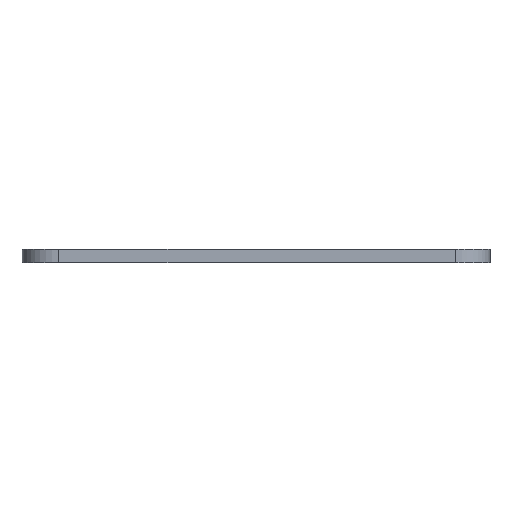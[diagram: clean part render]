
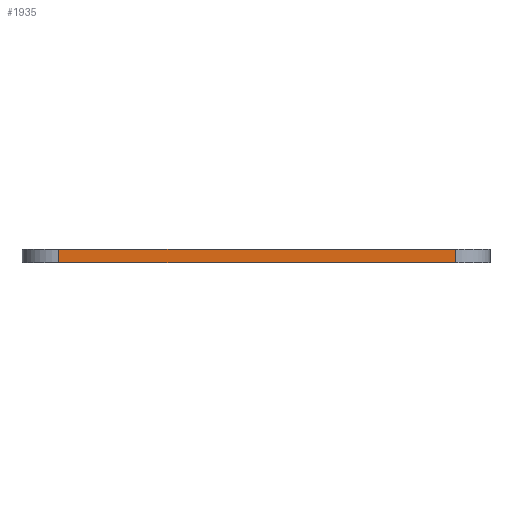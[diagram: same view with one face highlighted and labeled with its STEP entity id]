
A CAD part, front view. The second image highlights one B-rep face of the part: STEP entity #1935.
In plain terms, the highlighted planar face has unit normal (0, -1, 0).
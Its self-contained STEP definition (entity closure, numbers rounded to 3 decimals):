
#72 = PLANE('',#73);
#73 = AXIS2_PLACEMENT_3D('',#74,#75,#76);
#74 = CARTESIAN_POINT('',(50.497,82.804,3.));
#75 = DIRECTION('',(0.,0.,1.));
#76 = DIRECTION('',(1.,0.,-0.));
#126 = PLANE('',#127);
#127 = AXIS2_PLACEMENT_3D('',#128,#129,#130);
#128 = CARTESIAN_POINT('',(50.497,82.804,0.));
#129 = DIRECTION('',(0.,0.,1.));
#130 = DIRECTION('',(1.,0.,-0.));
#323 = VERTEX_POINT('',#324);
#324 = CARTESIAN_POINT('',(7.938,0.,0.));
#339 = CYLINDRICAL_SURFACE('',#340,7.938);
#340 = AXIS2_PLACEMENT_3D('',#341,#342,#343);
#341 = CARTESIAN_POINT('',(7.938,7.938,0.));
#342 = DIRECTION('',(-0.,-0.,-1.));
#343 = DIRECTION('',(1.,0.,-0.));
#351 = EDGE_CURVE('',#323,#352,#354,.T.);
#352 = VERTEX_POINT('',#353);
#353 = CARTESIAN_POINT('',(93.577,0.,0.));
#354 = SURFACE_CURVE('',#355,(#359,#366),.PCURVE_S1.);
#355 = LINE('',#356,#357);
#356 = CARTESIAN_POINT('',(7.938,0.,0.));
#357 = VECTOR('',#358,1.);
#358 = DIRECTION('',(1.,0.,0.));
#359 = PCURVE('',#126,#360);
#360 = DEFINITIONAL_REPRESENTATION('',(#361),#365);
#361 = LINE('',#362,#363);
#362 = CARTESIAN_POINT('',(-42.559,-82.804));
#363 = VECTOR('',#364,1.);
#364 = DIRECTION('',(1.,0.));
#365 = ( GEOMETRIC_REPRESENTATION_CONTEXT(2) 
PARAMETRIC_REPRESENTATION_CONTEXT() REPRESENTATION_CONTEXT('2D SPACE',''
  ) );
#366 = PCURVE('',#367,#372);
#367 = PLANE('',#368);
#368 = AXIS2_PLACEMENT_3D('',#369,#370,#371);
#369 = CARTESIAN_POINT('',(7.938,0.,0.));
#370 = DIRECTION('',(0.,1.,0.));
#371 = DIRECTION('',(1.,0.,0.));
#372 = DEFINITIONAL_REPRESENTATION('',(#373),#377);
#373 = LINE('',#374,#375);
#374 = CARTESIAN_POINT('',(0.,0.));
#375 = VECTOR('',#376,1.);
#376 = DIRECTION('',(1.,0.));
#377 = ( GEOMETRIC_REPRESENTATION_CONTEXT(2) 
PARAMETRIC_REPRESENTATION_CONTEXT() REPRESENTATION_CONTEXT('2D SPACE',''
  ) );
#396 = CYLINDRICAL_SURFACE('',#397,7.428);
#397 = AXIS2_PLACEMENT_3D('',#398,#399,#400);
#398 = CARTESIAN_POINT('',(93.577,7.428,0.));
#399 = DIRECTION('',(-0.,-0.,-1.));
#400 = DIRECTION('',(1.,0.,-0.));
#1139 = VERTEX_POINT('',#1140);
#1140 = CARTESIAN_POINT('',(7.938,0.,3.));
#1162 = EDGE_CURVE('',#1139,#1163,#1165,.T.);
#1163 = VERTEX_POINT('',#1164);
#1164 = CARTESIAN_POINT('',(93.577,0.,3.));
#1165 = SURFACE_CURVE('',#1166,(#1170,#1177),.PCURVE_S1.);
#1166 = LINE('',#1167,#1168);
#1167 = CARTESIAN_POINT('',(7.938,0.,3.));
#1168 = VECTOR('',#1169,1.);
#1169 = DIRECTION('',(1.,0.,0.));
#1170 = PCURVE('',#72,#1171);
#1171 = DEFINITIONAL_REPRESENTATION('',(#1172),#1176);
#1172 = LINE('',#1173,#1174);
#1173 = CARTESIAN_POINT('',(-42.559,-82.804));
#1174 = VECTOR('',#1175,1.);
#1175 = DIRECTION('',(1.,0.));
#1176 = ( GEOMETRIC_REPRESENTATION_CONTEXT(2) 
PARAMETRIC_REPRESENTATION_CONTEXT() REPRESENTATION_CONTEXT('2D SPACE',''
  ) );
#1177 = PCURVE('',#367,#1178);
#1178 = DEFINITIONAL_REPRESENTATION('',(#1179),#1183);
#1179 = LINE('',#1180,#1181);
#1180 = CARTESIAN_POINT('',(0.,-3.));
#1181 = VECTOR('',#1182,1.);
#1182 = DIRECTION('',(1.,0.));
#1183 = ( GEOMETRIC_REPRESENTATION_CONTEXT(2) 
PARAMETRIC_REPRESENTATION_CONTEXT() REPRESENTATION_CONTEXT('2D SPACE',''
  ) );
#1887 = EDGE_CURVE('',#323,#1139,#1888,.T.);
#1888 = SURFACE_CURVE('',#1889,(#1893,#1900),.PCURVE_S1.);
#1889 = LINE('',#1890,#1891);
#1890 = CARTESIAN_POINT('',(7.938,0.,0.));
#1891 = VECTOR('',#1892,1.);
#1892 = DIRECTION('',(0.,0.,1.));
#1893 = PCURVE('',#339,#1894);
#1894 = DEFINITIONAL_REPRESENTATION('',(#1895),#1899);
#1895 = LINE('',#1896,#1897);
#1896 = CARTESIAN_POINT('',(-4.712,0.));
#1897 = VECTOR('',#1898,1.);
#1898 = DIRECTION('',(-0.,-1.));
#1899 = ( GEOMETRIC_REPRESENTATION_CONTEXT(2) 
PARAMETRIC_REPRESENTATION_CONTEXT() REPRESENTATION_CONTEXT('2D SPACE',''
  ) );
#1900 = PCURVE('',#367,#1901);
#1901 = DEFINITIONAL_REPRESENTATION('',(#1902),#1906);
#1902 = LINE('',#1903,#1904);
#1903 = CARTESIAN_POINT('',(0.,0.));
#1904 = VECTOR('',#1905,1.);
#1905 = DIRECTION('',(0.,-1.));
#1906 = ( GEOMETRIC_REPRESENTATION_CONTEXT(2) 
PARAMETRIC_REPRESENTATION_CONTEXT() REPRESENTATION_CONTEXT('2D SPACE',''
  ) );
#1935 = ADVANCED_FACE('',(#1936),#367,.F.);
#1936 = FACE_BOUND('',#1937,.F.);
#1937 = EDGE_LOOP('',(#1938,#1939,#1940,#1961));
#1938 = ORIENTED_EDGE('',*,*,#1887,.T.);
#1939 = ORIENTED_EDGE('',*,*,#1162,.T.);
#1940 = ORIENTED_EDGE('',*,*,#1941,.F.);
#1941 = EDGE_CURVE('',#352,#1163,#1942,.T.);
#1942 = SURFACE_CURVE('',#1943,(#1947,#1954),.PCURVE_S1.);
#1943 = LINE('',#1944,#1945);
#1944 = CARTESIAN_POINT('',(93.577,0.,0.));
#1945 = VECTOR('',#1946,1.);
#1946 = DIRECTION('',(0.,0.,1.));
#1947 = PCURVE('',#367,#1948);
#1948 = DEFINITIONAL_REPRESENTATION('',(#1949),#1953);
#1949 = LINE('',#1950,#1951);
#1950 = CARTESIAN_POINT('',(85.64,0.));
#1951 = VECTOR('',#1952,1.);
#1952 = DIRECTION('',(0.,-1.));
#1953 = ( GEOMETRIC_REPRESENTATION_CONTEXT(2) 
PARAMETRIC_REPRESENTATION_CONTEXT() REPRESENTATION_CONTEXT('2D SPACE',''
  ) );
#1954 = PCURVE('',#396,#1955);
#1955 = DEFINITIONAL_REPRESENTATION('',(#1956),#1960);
#1956 = LINE('',#1957,#1958);
#1957 = CARTESIAN_POINT('',(-4.712,0.));
#1958 = VECTOR('',#1959,1.);
#1959 = DIRECTION('',(-0.,-1.));
#1960 = ( GEOMETRIC_REPRESENTATION_CONTEXT(2) 
PARAMETRIC_REPRESENTATION_CONTEXT() REPRESENTATION_CONTEXT('2D SPACE',''
  ) );
#1961 = ORIENTED_EDGE('',*,*,#351,.F.);
